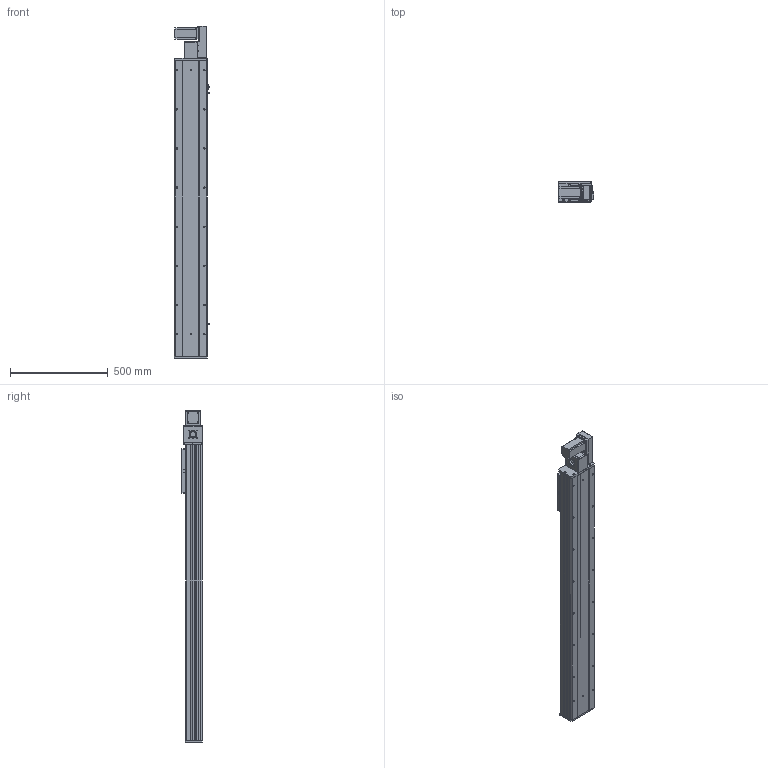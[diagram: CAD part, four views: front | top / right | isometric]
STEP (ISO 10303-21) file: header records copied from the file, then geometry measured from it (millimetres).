
FILE_DESCRIPTION (( 'STEP AP203' ), '1' );
FILE_NAME ('Y170CB-D105-S1200-BR-P400W.STEP', '2020-02-19T09:13:55', ( '微软用户' ), ( '微软中国' ), 'SwSTEP 2.0', 'SolidWorks 2017', '' );
FILE_SCHEMA (( 'CONFIG_CONTROL_DESIGN' ));
Length unit declared in the file: millimetre
Products named in the file (17): 70B喘謫眊----; B-源倛裔啣; 17B-耜蚾蟀諉啣----; 0B-萇儂楊擘啣; san松下电机400不带刹车----; Y70俋欶BR----; 70CB-掛极-; --70CB --喘謫眊楊擘啣-; 70CB-耜裔啣-; 70C--詩湍揤踡え-; 70CB--耜裔; 70C-雄赽釱-奻-; 0C--雄赽釱俋欶-170; 70CB-詩湍--; Y100-135俋离換覜ん--; Y170CB-陔俋离換覜結え---; Y170CB-D105-S1200-BR-P400W
Assembly tree (20 placements, depth 2):
  Y170CB-D105-S1200-BR-P400W
    70B喘謫眊----
    B-源倛裔啣
    17B-耜蚾蟀諉啣----
    0B-萇儂楊擘啣
    san松下电机400不带刹车----
    Y70俋欶BR----
    70CB-掛极-
    --70CB --喘謫眊楊擘啣-
    70CB-耜裔啣-  x2
    70C--詩湍揤踡え-  x2
    70CB--耜裔
    70C-雄赽釱-奻-
    0C--雄赽釱俋欶-170
    70CB-詩湍--
    Y100-135俋离換覜ん--  x3
    Y170CB-陔俋离換覜結え---
Bounding box: 183.5 x 107 x 1697 mm (x, y, z)
Volume: 7319863.2 mm3; surface area: 2620415.4 mm2
Topology: 20 solids, 20 shells, 1001 faces, 2681 edges, 1778 vertices
Faces by surface type: cylinder 515, plane 462, cone 24
Entity records: 31751 total; most frequent: CARTESIAN_POINT 5841, DIRECTION 5164, ORIENTED_EDGE 4844, EDGE_CURVE 2422, AXIS2_PLACEMENT_3D 1885, VERTEX_POINT 1608, VECTOR 1394, LINE 1394
